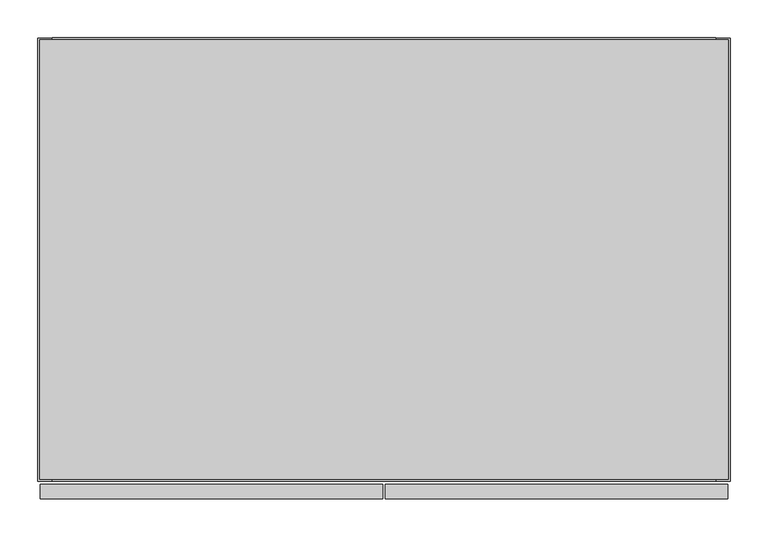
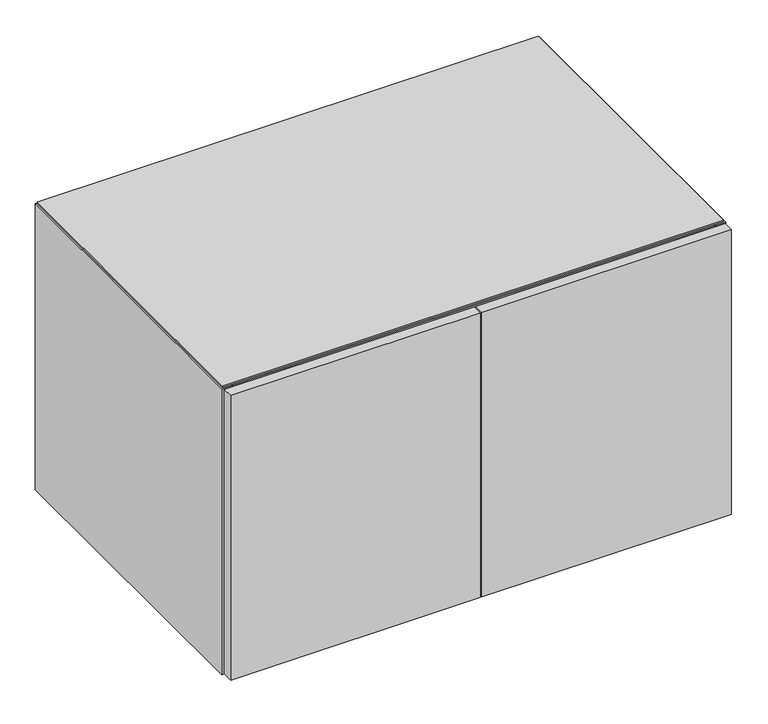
"""IFC4 building model written with IfcOpenShell, lengths in millimetres: furniture geometry, Geiger_GeigerOneCasegoods_LowStorageHingedDoors : Vertical Veneer 36Wx24Dx21.75H."""

from ifc_helpers import new_model, si_unit, point, frame, origin, place, context, project, spatial, polyline, circle_curve, ellipse_curve, trimmed, outline, extrude, source, transform, mapped, element, save
from ifc_brep_helpers import plane_surface, cylinder_surface, revolved_surface, advanced_brep


def furniture_eaf7f4b3(model_context):
    return source(origin(), model_context, "Body", "SolidModel", [
        extrude(outline(polyline([(19.0, -19.5), (895.4, -19.5), (895.4, -586.4), (19.0, -586.4), (19.0, -19.5)])), frame((0.0, 0.0, 73.2), z_axis=(0.0, 0.0, 1.0), x_axis=(1.0, 0.0, 0.0)), (0.0, 0.0, 1.0), 19.5072),
        extrude(outline(polyline([(3.0, -590.4), (455.7, -590.4), (455.7, -609.6), (3.0, -609.6), (3.0, -590.4)])), frame((0.0, 0.0, 15.7), z_axis=(0.0, 0.0, 1.0), x_axis=(1.0, 0.0, 0.0)), (0.0, 0.0, 1.0), 546.0),
        extrude(outline(polyline([(458.7, -590.4), (911.4, -590.4), (911.4, -609.6), (458.7, -609.6), (458.7, -590.4)])), frame((0.0, 0.0, 15.7), z_axis=(0.0, 0.0, 1.0), x_axis=(1.0, 0.0, 0.0)), (0.0, 0.0, 1.0), 546.0),
        extrude(outline(polyline([(19.0, -19.5), (895.4, -19.5), (895.4, -566.9), (19.0, -566.9), (19.0, -19.5)])), frame((0.0, 0.0, 12.7), z_axis=(0.0, 0.0, 1.0), x_axis=(1.0, 0.0, 0.0)), (0.0, 0.0, 1.0), 19.5),
        extrude(outline(polyline([(911.86, -2.54), (911.86, -583.86), (2.54, -583.86), (2.54, -2.54), (911.86, -2.54)])), frame((0.0, 0.0, 561.7), z_axis=(0.0, 0.0, 1.0), x_axis=(1.0, 0.0, 0.0)), (0.0, 0.0, 1.0), 3.2766),
        extrude(outline(polyline([(19.0, -95.7), (895.4, -95.7), (895.4, -586.4), (19.0, -586.4), (19.0, -95.7)])), frame((0.0, 0.0, 542.2), z_axis=(0.0, 0.0, 1.0), x_axis=(1.0, 0.0, 0.0)), (0.0, 0.0, 1.0), 19.5),
        extrude(outline(polyline([(895.4, -19.5), (19.0, -19.5), (19.0, 0.0), (895.4, 0.0), (895.4, -19.5)])), frame((0.0, 0.0, 12.7), z_axis=(0.0, 0.0, 1.0), x_axis=(1.0, 0.0, 0.0)), (0.0, 0.0, 1.0), 549.0),
        extrude(outline(polyline([(19.0, -566.9), (895.4, -566.9), (895.4, -586.4), (19.0, -586.4), (19.0, -566.9)])), frame((0.0, 0.0, 12.7), z_axis=(0.0, 0.0, 1.0), x_axis=(1.0, 0.0, 0.0)), (0.0, 0.0, 1.0), 60.5),
        extrude(outline(polyline([(19.0, -586.4), (0.0, -586.4), (0.0, -0.5), (19.0, -0.5), (19.0, -586.4)])), frame((0.0, 0.0, 12.7), z_axis=(0.0, 0.0, 1.0), x_axis=(1.0, 0.0, 0.0)), (0.0, 0.0, 1.0), 549.0),
        extrude(outline(polyline([(914.4, -586.4), (895.4, -586.4), (895.4, -0.5), (914.4, -0.5), (914.4, -586.4)])), frame((0.0, 0.0, 12.7), z_axis=(0.0, 0.0, 1.0), x_axis=(1.0, 0.0, 0.0)), (0.0, 0.0, 1.0), 549.0),
        advanced_brep(
        [(94.0575663, -528.9165105, 0.0), (71.9424337, -528.9165105, 0.0), (83.0, -528.9165105, 0.0), (94.0575663, -528.9165105, 9.5), (71.9424337, -528.9165105, 9.5), (87.066455, -528.9165105, 9.5), (78.933545, -528.9165105, 9.5), (87.066455, -528.9165105, 12.7), (78.933545, -528.9165105, 12.7), (83.0, -528.9165105, 12.7)],
        [
            (0, 1, circle_curve(frame((83.0, -528.9165105, 0.0), z_axis=(0.0, 0.0, -1.0), x_axis=(-1.0, 0.0, 0.0)), 11.0575663)),
            (1, 2),
            (2, 0),
            (1, 0, circle_curve(frame((83.0, -528.9165105, 0.0), z_axis=(0.0, 0.0, -1.0), x_axis=(-1.0, 0.0, 0.0)), 11.0575663)),
            (0, 3, circle_curve(frame((94.0575663, -528.9165105, 4.75), z_axis=(0.0, -1.0, 0.0), x_axis=(1.0, 0.0, 0.0)), 4.75)),
            (3, 4, circle_curve(frame((83.0, -528.9165105, 9.5), z_axis=(0.0, 0.0, -1.0), x_axis=(-1.0, 0.0, 0.0)), 11.0575663)),
            (4, 1, circle_curve(frame((71.9424337, -528.9165105, 4.75), z_axis=(0.0, -1.0, 0.0), x_axis=(-1.0, 0.0, 0.0)), 4.75)),
            (4, 3, circle_curve(frame((83.0, -528.9165105, 9.5), z_axis=(0.0, 0.0, -1.0), x_axis=(-1.0, 0.0, 0.0)), 11.0575663)),
            (3, 5),
            (5, 6, circle_curve(frame((83.0, -528.9165105, 9.5), z_axis=(0.0, 0.0, -1.0), x_axis=(-1.0, 0.0, 0.0)), 4.066455)),
            (6, 4),
            (6, 5, circle_curve(frame((83.0, -528.9165105, 9.5), z_axis=(0.0, 0.0, -1.0), x_axis=(-1.0, 0.0, 0.0)), 4.066455)),
            (5, 7),
            (7, 8, circle_curve(frame((83.0, -528.9165105, 12.7), z_axis=(0.0, 0.0, -1.0), x_axis=(-1.0, 0.0, 0.0)), 4.066455)),
            (8, 6),
            (8, 7, circle_curve(frame((83.0, -528.9165105, 12.7), z_axis=(0.0, 0.0, -1.0), x_axis=(-1.0, 0.0, 0.0)), 4.066455)),
            (7, 9),
            (9, 8),
        ],
        [
            plane_surface(frame((83.0, -528.9165105, 0.0), z_axis=(0.0, 0.0, -1.0), x_axis=(-1.0, 0.0, 0.0))),
            revolved_surface(trimmed(ellipse_curve(frame((71.9424337, -528.9165105, 4.75), z_axis=(0.0, 1.0, 0.0), x_axis=(-1.0, 0.0, 0.0)), 4.75, 4.75), [point((71.9424337, -528.9165105, 0.0))], [point((71.9424337, -528.9165105, 9.5))], True, "CARTESIAN"), (83.0, -528.9165105, 0.0), (0.0, 0.0, 1.0)),
            plane_surface(frame((83.0, -528.9165105, 9.5), z_axis=(0.0, 0.0, 1.0), x_axis=(-1.0, 0.0, 0.0))),
            cylinder_surface(frame((83.0, -528.9165105, 0.0), z_axis=(0.0, 0.0, 1.0), x_axis=(-1.0, 0.0, 0.0)), 4.066455),
            plane_surface(frame((83.0, -528.9165105, 12.7), z_axis=(0.0, 0.0, 1.0), x_axis=(-1.0, 0.0, 0.0))),
        ],
        [
            (0, [[1, 2, 3]]),
            (0, [[-2, 4, -3]]),
            (1, [[-1, 5, 6, 7]]),
            (1, [[-4, -7, 8, -5]]),
            (2, [[-6, 9, 10, 11]]),
            (2, [[-8, -11, 12, -9]]),
            (3, [[-10, 13, 14, 15]]),
            (3, [[-12, -15, 16, -13]]),
            (4, [[-14, 17, 18]]),
            (4, [[-16, -18, -17]]),
        ],
    ),
        advanced_brep(
        [(94.0575663, -127.0, 0.0), (71.9424337, -127.0, 0.0), (83.0, -127.0, 0.0), (94.0575663, -127.0, 9.5), (71.9424337, -127.0, 9.5), (87.066455, -127.0, 9.5), (78.933545, -127.0, 9.5), (87.066455, -127.0, 12.7), (78.933545, -127.0, 12.7), (83.0, -127.0, 12.7)],
        [
            (0, 1, circle_curve(frame((83.0, -127.0, 0.0), z_axis=(0.0, 0.0, -1.0), x_axis=(-1.0, 0.0, 0.0)), 11.0575663)),
            (1, 2),
            (2, 0),
            (1, 0, circle_curve(frame((83.0, -127.0, 0.0), z_axis=(0.0, 0.0, -1.0), x_axis=(-1.0, 0.0, 0.0)), 11.0575663)),
            (0, 3, circle_curve(frame((94.0575663, -127.0, 4.75), z_axis=(0.0, -1.0, 0.0), x_axis=(1.0, 0.0, 0.0)), 4.75)),
            (3, 4, circle_curve(frame((83.0, -127.0, 9.5), z_axis=(0.0, 0.0, -1.0), x_axis=(-1.0, 0.0, 0.0)), 11.0575663)),
            (4, 1, circle_curve(frame((71.9424337, -127.0, 4.75), z_axis=(0.0, -1.0, 0.0), x_axis=(-1.0, 0.0, 0.0)), 4.75)),
            (4, 3, circle_curve(frame((83.0, -127.0, 9.5), z_axis=(0.0, 0.0, -1.0), x_axis=(-1.0, 0.0, 0.0)), 11.0575663)),
            (3, 5),
            (5, 6, circle_curve(frame((83.0, -127.0, 9.5), z_axis=(0.0, 0.0, -1.0), x_axis=(-1.0, 0.0, 0.0)), 4.066455)),
            (6, 4),
            (6, 5, circle_curve(frame((83.0, -127.0, 9.5), z_axis=(0.0, 0.0, -1.0), x_axis=(-1.0, 0.0, 0.0)), 4.066455)),
            (5, 7),
            (7, 8, circle_curve(frame((83.0, -127.0, 12.7), z_axis=(0.0, 0.0, -1.0), x_axis=(-1.0, 0.0, 0.0)), 4.066455)),
            (8, 6),
            (8, 7, circle_curve(frame((83.0, -127.0, 12.7), z_axis=(0.0, 0.0, -1.0), x_axis=(-1.0, 0.0, 0.0)), 4.066455)),
            (7, 9),
            (9, 8),
        ],
        [
            plane_surface(frame((83.0, -127.0, 0.0), z_axis=(0.0, 0.0, -1.0), x_axis=(-1.0, 0.0, 0.0))),
            revolved_surface(trimmed(ellipse_curve(frame((71.9424337, -127.0, 4.75), z_axis=(0.0, 1.0, 0.0), x_axis=(-1.0, 0.0, 0.0)), 4.75, 4.75), [point((71.9424337, -127.0, 0.0))], [point((71.9424337, -127.0, 9.5))], True, "CARTESIAN"), (83.0, -127.0, 0.0), (0.0, 0.0, 1.0)),
            plane_surface(frame((83.0, -127.0, 9.5), z_axis=(0.0, 0.0, 1.0), x_axis=(-1.0, 0.0, 0.0))),
            cylinder_surface(frame((83.0, -127.0, 0.0), z_axis=(0.0, 0.0, 1.0), x_axis=(-1.0, 0.0, 0.0)), 4.066455),
            plane_surface(frame((83.0, -127.0, 12.7), z_axis=(0.0, 0.0, 1.0), x_axis=(-1.0, 0.0, 0.0))),
        ],
        [
            (0, [[1, 2, 3]]),
            (0, [[-2, 4, -3]]),
            (1, [[-1, 5, 6, 7]]),
            (1, [[-4, -7, 8, -5]]),
            (2, [[-6, 9, 10, 11]]),
            (2, [[-8, -11, 12, -9]]),
            (3, [[-10, 13, 14, 15]]),
            (3, [[-12, -15, 16, -13]]),
            (4, [[-14, 17, 18]]),
            (4, [[-16, -18, -17]]),
        ],
    ),
        advanced_brep(
        [(831.4, -528.9165105, 0.0), (842.4575663, -528.9165105, 0.0), (820.3424337, -528.9165105, 0.0), (842.4575663, -528.9165105, 9.5), (820.3424337, -528.9165105, 9.5), (835.466455, -528.9165105, 9.5), (827.333545, -528.9165105, 9.5), (835.466455, -528.9165105, 12.7), (827.333545, -528.9165105, 12.7), (831.4, -528.9165105, 12.7)],
        [
            (0, 1),
            (1, 2, circle_curve(frame((831.4, -528.9165105, 0.0), z_axis=(0.0, 0.0, -1.0), x_axis=(1.0, 0.0, 0.0)), 11.0575663)),
            (2, 0),
            (2, 1, circle_curve(frame((831.4, -528.9165105, 0.0), z_axis=(0.0, 0.0, -1.0), x_axis=(1.0, 0.0, 0.0)), 11.0575663)),
            (1, 3, circle_curve(frame((842.4575663, -528.9165105, 4.75), z_axis=(0.0, -1.0, 0.0), x_axis=(-1.0, 0.0, 0.0)), 4.75)),
            (3, 4, circle_curve(frame((831.4, -528.9165105, 9.5), z_axis=(0.0, 0.0, -1.0), x_axis=(1.0, 0.0, 0.0)), 11.0575663)),
            (4, 2, circle_curve(frame((820.3424337, -528.9165105, 4.75), z_axis=(0.0, -1.0, 0.0), x_axis=(1.0, 0.0, 0.0)), 4.75)),
            (4, 3, circle_curve(frame((831.4, -528.9165105, 9.5), z_axis=(0.0, 0.0, -1.0), x_axis=(1.0, 0.0, 0.0)), 11.0575663)),
            (3, 5),
            (5, 6, circle_curve(frame((831.4, -528.9165105, 9.5), z_axis=(0.0, 0.0, -1.0), x_axis=(1.0, 0.0, 0.0)), 4.066455)),
            (6, 4),
            (6, 5, circle_curve(frame((831.4, -528.9165105, 9.5), z_axis=(0.0, 0.0, -1.0), x_axis=(1.0, 0.0, 0.0)), 4.066455)),
            (5, 7),
            (7, 8, circle_curve(frame((831.4, -528.9165105, 12.7), z_axis=(0.0, 0.0, -1.0), x_axis=(1.0, 0.0, 0.0)), 4.066455)),
            (8, 6),
            (8, 7, circle_curve(frame((831.4, -528.9165105, 12.7), z_axis=(0.0, 0.0, -1.0), x_axis=(1.0, 0.0, 0.0)), 4.066455)),
            (7, 9),
            (9, 8),
        ],
        [
            plane_surface(frame((831.4, -528.9165105, 0.0), z_axis=(0.0, 0.0, -1.0), x_axis=(1.0, 0.0, 0.0))),
            revolved_surface(trimmed(ellipse_curve(frame((842.4575663, -528.9165105, 4.75), z_axis=(0.0, 1.0, 0.0), x_axis=(-1.0, 0.0, 0.0)), 4.75, 4.75), [point((842.4575663, -528.9165105, 9.5))], [point((842.4575663, -528.9165105, 0.0))], True, "CARTESIAN"), (831.4, -528.9165105, 0.0), (0.0, 0.0, -1.0)),
            plane_surface(frame((831.4, -528.9165105, 9.5), z_axis=(0.0, 0.0, 1.0), x_axis=(1.0, 0.0, 0.0))),
            cylinder_surface(frame((831.4, -528.9165105, 0.0), z_axis=(0.0, 0.0, -1.0), x_axis=(1.0, 0.0, 0.0)), 4.066455),
            plane_surface(frame((831.4, -528.9165105, 12.7), z_axis=(0.0, 0.0, 1.0), x_axis=(1.0, 0.0, 0.0))),
        ],
        [
            (0, [[1, 2, 3]]),
            (0, [[-1, -3, 4]]),
            (1, [[-2, 5, 6, 7]]),
            (1, [[-4, -7, 8, -5]]),
            (2, [[-6, 9, 10, 11]]),
            (2, [[-8, -11, 12, -9]]),
            (3, [[-10, 13, 14, 15]]),
            (3, [[-12, -15, 16, -13]]),
            (4, [[-14, 17, 18]]),
            (4, [[-16, -18, -17]]),
        ],
    ),
        advanced_brep(
        [(831.4, -127.0, 0.0), (842.4575663, -127.0, 0.0), (820.3424337, -127.0, 0.0), (842.4575663, -127.0, 9.5), (820.3424337, -127.0, 9.5), (835.466455, -127.0, 9.5), (827.333545, -127.0, 9.5), (835.466455, -127.0, 12.7), (827.333545, -127.0, 12.7), (831.4, -127.0, 12.7)],
        [
            (0, 1),
            (1, 2, circle_curve(frame((831.4, -127.0, 0.0), z_axis=(0.0, 0.0, -1.0), x_axis=(1.0, 0.0, 0.0)), 11.0575663)),
            (2, 0),
            (2, 1, circle_curve(frame((831.4, -127.0, 0.0), z_axis=(0.0, 0.0, -1.0), x_axis=(1.0, 0.0, 0.0)), 11.0575663)),
            (1, 3, circle_curve(frame((842.4575663, -127.0, 4.75), z_axis=(0.0, -1.0, 0.0), x_axis=(-1.0, 0.0, 0.0)), 4.75)),
            (3, 4, circle_curve(frame((831.4, -127.0, 9.5), z_axis=(0.0, 0.0, -1.0), x_axis=(1.0, 0.0, 0.0)), 11.0575663)),
            (4, 2, circle_curve(frame((820.3424337, -127.0, 4.75), z_axis=(0.0, -1.0, 0.0), x_axis=(1.0, 0.0, 0.0)), 4.75)),
            (4, 3, circle_curve(frame((831.4, -127.0, 9.5), z_axis=(0.0, 0.0, -1.0), x_axis=(1.0, 0.0, 0.0)), 11.0575663)),
            (3, 5),
            (5, 6, circle_curve(frame((831.4, -127.0, 9.5), z_axis=(0.0, 0.0, -1.0), x_axis=(1.0, 0.0, 0.0)), 4.066455)),
            (6, 4),
            (6, 5, circle_curve(frame((831.4, -127.0, 9.5), z_axis=(0.0, 0.0, -1.0), x_axis=(1.0, 0.0, 0.0)), 4.066455)),
            (5, 7),
            (7, 8, circle_curve(frame((831.4, -127.0, 12.7), z_axis=(0.0, 0.0, -1.0), x_axis=(1.0, 0.0, 0.0)), 4.066455)),
            (8, 6),
            (8, 7, circle_curve(frame((831.4, -127.0, 12.7), z_axis=(0.0, 0.0, -1.0), x_axis=(1.0, 0.0, 0.0)), 4.066455)),
            (7, 9),
            (9, 8),
        ],
        [
            plane_surface(frame((831.4, -127.0, 0.0), z_axis=(0.0, 0.0, -1.0), x_axis=(1.0, 0.0, 0.0))),
            revolved_surface(trimmed(ellipse_curve(frame((842.4575663, -127.0, 4.75), z_axis=(0.0, 1.0, 0.0), x_axis=(-1.0, 0.0, 0.0)), 4.75, 4.75), [point((842.4575663, -127.0, 9.5))], [point((842.4575663, -127.0, 0.0))], True, "CARTESIAN"), (831.4, -127.0, 0.0), (0.0, 0.0, -1.0)),
            plane_surface(frame((831.4, -127.0, 9.5), z_axis=(0.0, 0.0, 1.0), x_axis=(1.0, 0.0, 0.0))),
            cylinder_surface(frame((831.4, -127.0, 0.0), z_axis=(0.0, 0.0, -1.0), x_axis=(1.0, 0.0, 0.0)), 4.066455),
            plane_surface(frame((831.4, -127.0, 12.7), z_axis=(0.0, 0.0, 1.0), x_axis=(1.0, 0.0, 0.0))),
        ],
        [
            (0, [[1, 2, 3]]),
            (0, [[-1, -3, 4]]),
            (1, [[-2, 5, 6, 7]]),
            (1, [[-4, -7, 8, -5]]),
            (2, [[-6, 9, 10, 11]]),
            (2, [[-8, -11, 12, -9]]),
            (3, [[-10, 13, 14, 15]]),
            (3, [[-12, -15, 16, -13]]),
            (4, [[-14, 17, 18]]),
            (4, [[-16, -18, -17]]),
        ],
    ),
    ])


if __name__ == "__main__":
    model = new_model("IFC4")
    model_context = context("Model", 3, world=origin())
    ifc_project = project(units=[si_unit("LENGTHUNIT", "METRE", prefix="MILLI")], contexts=[model_context])
    site = spatial("IfcSite", under=ifc_project)
    building = spatial("IfcBuilding", under=site)
    placement = place(None, origin())
    furniture_shape = furniture_eaf7f4b3(model_context)
    element("IfcFurniture", 1, ObjectType="Geiger_GeigerOneCasegoods_LowStorageHingedDoors : Vertical Veneer 36Wx24Dx21.75H", at=placement, inside=building, context=model_context, shape_type="MappedRepresentation", body=[
        mapped(furniture_shape, transform((0.0, 0.0, 0.0), x_axis=(1.0, 0.0, 0.0), y_axis=(0.0, 1.0, 0.0), z_axis=(0.0, 0.0, 1.0))),
    ])
    save(model, "model.ifc")
